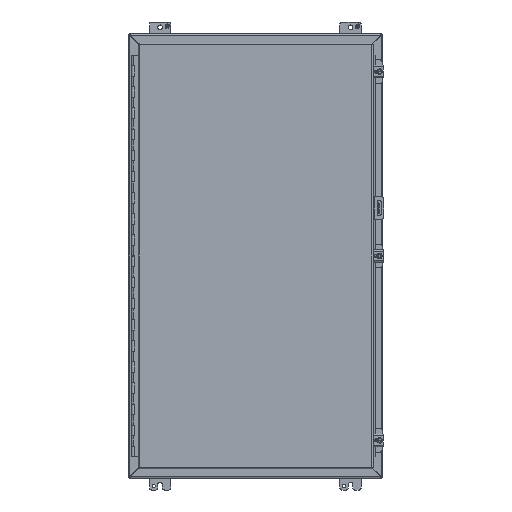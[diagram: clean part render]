
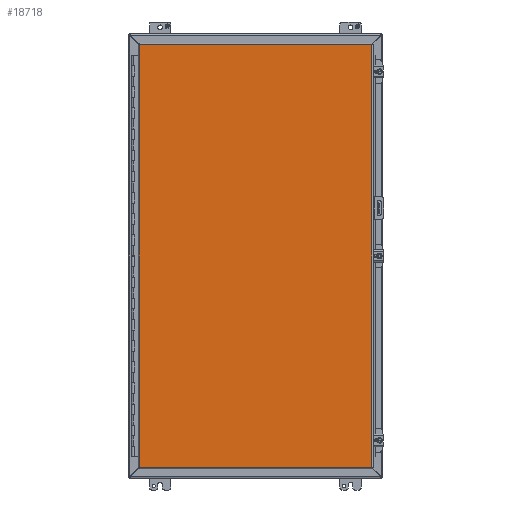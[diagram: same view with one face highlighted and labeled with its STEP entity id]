
A CAD part, front view. The second image highlights one B-rep face of the part: STEP entity #18718.
In plain terms, the highlighted planar face has unit normal (0, -1, 0).
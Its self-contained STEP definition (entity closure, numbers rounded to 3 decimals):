
#1297=LINE('',#28959,#3065);
#1298=LINE('',#28962,#3066);
#1299=LINE('',#28964,#3067);
#1300=LINE('',#28966,#3068);
#3065=VECTOR('',#22344,1000.);
#3066=VECTOR('',#22345,1000.);
#3067=VECTOR('',#22346,1000.);
#3068=VECTOR('',#22347,1000.);
#6137=ORIENTED_EDGE('',*,*,#11011,.T.);
#6138=ORIENTED_EDGE('',*,*,#11012,.T.);
#6139=ORIENTED_EDGE('',*,*,#11013,.T.);
#6140=ORIENTED_EDGE('',*,*,#11014,.T.);
#11011=EDGE_CURVE('',#13548,#13549,#1297,.T.);
#11012=EDGE_CURVE('',#13549,#13550,#1298,.T.);
#11013=EDGE_CURVE('',#13550,#13551,#1299,.T.);
#11014=EDGE_CURVE('',#13551,#13548,#1300,.T.);
#13548=VERTEX_POINT('',#28960);
#13549=VERTEX_POINT('',#28961);
#13550=VERTEX_POINT('',#28963);
#13551=VERTEX_POINT('',#28965);
#15750=EDGE_LOOP('',(#6137,#6138,#6139,#6140));
#16920=FACE_BOUND('',#15750,.T.);
#17961=PLANE('',#20039);
#18718=ADVANCED_FACE('',(#16920),#17961,.T.);
#20039=AXIS2_PLACEMENT_3D('',#28958,#22342,#22343);
#22342=DIRECTION('',(0.,-1.,0.));
#22343=DIRECTION('',(0.,0.,-1.));
#22344=DIRECTION('',(0.,0.,-1.));
#22345=DIRECTION('',(1.,0.,0.));
#22346=DIRECTION('',(0.,0.,1.));
#22347=DIRECTION('',(-1.,0.,0.));
#28958=CARTESIAN_POINT('',(-279.044,0.,-507.86));
#28959=CARTESIAN_POINT('',(-279.044,0.,507.86));
#28960=CARTESIAN_POINT('',(-279.044,0.,507.86));
#28961=CARTESIAN_POINT('',(-279.044,0.,-507.86));
#28962=CARTESIAN_POINT('',(-279.044,0.,-507.86));
#28963=CARTESIAN_POINT('',(279.044,0.,-507.86));
#28964=CARTESIAN_POINT('',(279.044,0.,-507.86));
#28965=CARTESIAN_POINT('',(279.044,0.,507.86));
#28966=CARTESIAN_POINT('',(279.044,0.,507.86));
